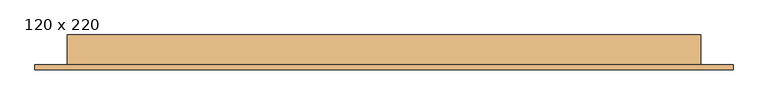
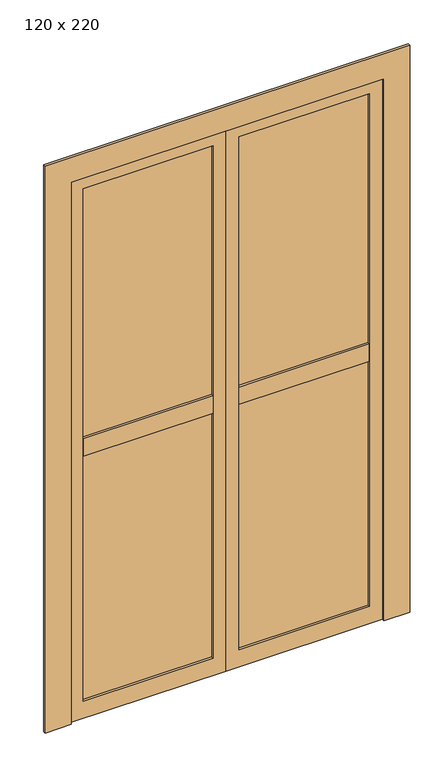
"""IFC4 building model written with IfcOpenShell, lengths in millimetres: door geometry, PORTA DE VIDRO COM ESQUADRIA DE ABRIR - 2 FOLHAS : 120 x 220."""

import ifcopenshell
import ifcopenshell.guid

model = None  # the IFC model being written
_history = None  # IfcOwnerHistory: only IFC2X3 demands one
_inside = {}  # id of a spatial element -> (the spatial element, [elements in it])
_under = {}  # id of a project, library or spatial element -> (it, [spatial elements below it])
_declared = {}  # id of a project -> (the project, [libraries it declares])
_typed = {}  # id of a type object -> (the type object, [elements of that type])
_made_of = {}  # id of a material, layer set ... -> (it, [elements and type objects made of it])


def new_model(schema):
    """Start an empty IFC model of exactly this schema.

    Asked for "IFC4X3", IfcOpenShell would pick the latest addendum, in which some entities
    have other attributes; the version numbers below select the first issue.
    IFC2X3 requires an IfcOwnerHistory on every rooted entity: one is made here for all.
    """
    global model, _history
    if schema == "IFC4X3":
        model = ifcopenshell.file(schema_version=(4, 3, 0, 0))
    else:
        model = ifcopenshell.file(schema=schema)
    _inside.clear()
    _under.clear()
    _declared.clear()
    _typed.clear()
    _made_of.clear()
    _history = None
    if model.schema == "IFC2X3":
        org = make("IfcOrganization", Name="unknown")
        user = make(
            "IfcPersonAndOrganization",
            ThePerson=make("IfcPerson", FamilyName="unknown"),
            TheOrganization=org,
        )
        app = make(
            "IfcApplication",
            ApplicationDeveloper=org,
            Version="unknown",
            ApplicationFullName="unknown",
            ApplicationIdentifier="unknown",
        )
        _history = make(
            "IfcOwnerHistory",
            OwningUser=user,
            OwningApplication=app,
            ChangeAction="ADDED",
            CreationDate=0,
        )
    return model


def make(cls, **values):
    """One entity of the class cls with the attributes given. An attribute that is None is left unset."""
    return model.create_entity(
        cls, **{name: value for name, value in values.items() if value is not None}
    )


def rooted(cls, **values):
    """An entity with a GlobalId (a new one), such as an element, a storey or a relation."""
    return make(cls, GlobalId=ifcopenshell.guid.new(), OwnerHistory=_history, **values)


def si_unit(unit_type, name, prefix=None):
    """IfcSIUnit, for example si_unit("LENGTHUNIT", "METRE", prefix="MILLI")."""
    return make("IfcSIUnit", UnitType=unit_type, Prefix=prefix, Name=name)


def assignment(units):
    """IfcUnitAssignment: the units of a project."""
    return None if units is None else make("IfcUnitAssignment", Units=units)


def point(xyz):
    """IfcCartesianPoint."""
    return None if xyz is None else make("IfcCartesianPoint", Coordinates=xyz)


def direction(xyz):
    """IfcDirection."""
    return None if xyz is None else make("IfcDirection", DirectionRatios=xyz)


def frame(location, z_axis=None, x_axis=None):
    """IfcAxis2Placement3D, a coordinate frame: its origin and axes. An axis left out is left unset."""
    return make(
        "IfcAxis2Placement3D",
        Location=point(location),
        Axis=direction(z_axis),
        RefDirection=direction(x_axis),
    )


def origin():
    """The frame at (0, 0, 0) with its axes left unset."""
    return frame((0.0, 0.0, 0.0))


def place(relative_to, where):
    """IfcLocalPlacement: puts the frame where relative to a parent placement (None: the world)."""
    return make(
        "IfcLocalPlacement", PlacementRelTo=relative_to, RelativePlacement=where
    )


def context(
    kind, dimensions, precision=None, world=None, true_north=None, identifier=None
):
    """IfcGeometricRepresentationContext, for example the 3D "Model" context."""
    return make(
        "IfcGeometricRepresentationContext",
        ContextIdentifier=identifier,
        ContextType=kind,
        CoordinateSpaceDimension=dimensions,
        Precision=precision,
        WorldCoordinateSystem=world,
        TrueNorth=true_north,
    )


def project(units=None, contexts=None):
    """IfcProject with its units and contexts."""
    return rooted(
        "IfcProject",
        Name="project",
        RepresentationContexts=contexts,
        UnitsInContext=assignment(units),
    )


def spatial(cls, under=None, at=None, **own):
    """A site, building, storey or space (cls), placed at a placement, below another one or the project."""
    s = rooted(cls, ObjectPlacement=at, **own)
    if under is not None:
        _under.setdefault(under.id(), (under, []))[1].append(s)
    return s


def polyline(points):
    """IfcPolyline through the points."""
    return make("IfcPolyline", Points=[point(p) for p in points])


def outline(outer, holes=None, kind="AREA"):
    """IfcArbitraryClosedProfileDef: a profile drawn as a closed curve; with holes, ...WithVoids."""
    if holes is None:
        return make("IfcArbitraryClosedProfileDef", ProfileType=kind, OuterCurve=outer)
    return make(
        "IfcArbitraryProfileDefWithVoids",
        ProfileType=kind,
        OuterCurve=outer,
        InnerCurves=holes,
    )


def extrude(swept, where, along, depth):
    """IfcExtrudedAreaSolid: the profile swept, set in the frame where, extruded along a direction by depth."""
    return make(
        "IfcExtrudedAreaSolid",
        SweptArea=swept,
        Position=where,
        ExtrudedDirection=direction(along),
        Depth=depth,
    )


def faces_of(points, faces, orient=None, outer=None):
    """IfcFace entities. A face is a list of loops; a loop is a list of indices into points, from 0.

    orient and outer hold one flag for each loop. By default every Orientation is true, the
    first loop of a face is its IfcFaceOuterBound and the others are IfcFaceBound.
    """
    made = []
    for i, loops in enumerate(faces):
        bounds = []
        for j, loop in enumerate(loops):
            is_outer = j == 0 if outer is None else outer[i][j]
            bounds.append(
                make(
                    "IfcFaceOuterBound" if is_outer else "IfcFaceBound",
                    Bound=make("IfcPolyLoop", Polygon=[points[k] for k in loop]),
                    Orientation=True if orient is None else orient[i][j],
                )
            )
        made.append(make("IfcFace", Bounds=bounds))
    return made


def faceted_brep(points, faces, orient=None, outer=None, voids=None):
    """IfcFacetedBrep: a solid bounded by flat faces; with voids (closed shells), ...WithVoids."""
    shared = [point(p) for p in points]
    hull = make("IfcClosedShell", CfsFaces=faces_of(shared, faces, orient, outer))
    if voids is None:
        return make("IfcFacetedBrep", Outer=hull)
    return make(
        "IfcFacetedBrepWithVoids",
        Outer=hull,
        Voids=[
            make(cls, CfsFaces=faces_of(shared, fs, o, b)) for cls, fs, o, b in voids
        ],
    )


def shape(context_of_items, identifier, shape_type, items):
    """IfcShapeRepresentation: the items that make up one representation, for example the "Body"."""
    return make(
        "IfcShapeRepresentation",
        ContextOfItems=context_of_items,
        RepresentationIdentifier=identifier,
        RepresentationType=shape_type,
        Items=items,
    )


def source(mapping_origin, context_of_items, identifier, shape_type, items):
    """IfcRepresentationMap: a shape defined once, which mapped items show again and again."""
    return make(
        "IfcRepresentationMap",
        MappingOrigin=mapping_origin,
        MappedRepresentation=shape(context_of_items, identifier, shape_type, items),
    )


def transform(
    local_origin,
    x_axis=None,
    y_axis=None,
    z_axis=None,
    scale=None,
    scale2=None,
    scale3=None,
    uniform=True,
):
    """IfcCartesianTransformationOperator3D, or its non-uniform kind. x_axis, y_axis, z_axis: its Axis1, 2, 3."""
    if uniform:
        return make(
            "IfcCartesianTransformationOperator3D",
            Axis1=direction(x_axis),
            Axis2=direction(y_axis),
            LocalOrigin=point(local_origin),
            Scale=scale,
            Axis3=direction(z_axis),
        )
    return make(
        "IfcCartesianTransformationOperator3DnonUniform",
        Axis1=direction(x_axis),
        Axis2=direction(y_axis),
        LocalOrigin=point(local_origin),
        Scale=scale,
        Axis3=direction(z_axis),
        Scale2=scale2,
        Scale3=scale3,
    )


def mapped(mapping_source, mapping_target):
    """IfcMappedItem: shows the shape of a source again, moved by a transform."""
    return make(
        "IfcMappedItem", MappingSource=mapping_source, MappingTarget=mapping_target
    )


def made_of(thing, what):
    """Note that an element or type object is made of a material, layer set ...; save() writes the relation."""
    if what is not None:
        _made_of.setdefault(what.id(), (what, []))[1].append(thing)
    return thing


def element(
    cls,
    number,
    at=None,
    inside=None,
    cuts=None,
    type_object=None,
    material=None,
    context=None,
    identifier="Body",
    shape_type=None,
    held_by="IfcProductDefinitionShape",
    body=None,
    shapes=None,
    **own,
):
    """One element of the class cls, such as IfcWall. Its Tag is "e" and its number.

    at: its placement. inside: the storey or other place that contains it. cuts: it is an
    opening in that element (IfcRelVoidsElement). A single representation is given by context,
    identifier, shape_type and body (its items); several are given by shapes. held_by: the class
    of the entity that holds the representations. save() writes the other relations.
    """
    e = rooted(cls, Tag="e%d" % number, ObjectPlacement=at, **own)
    if body is not None:
        shapes = [shape(context, identifier, shape_type, body)]
    if shapes is not None:
        e.Representation = make(held_by, Representations=shapes)
    if inside is not None:
        _inside.setdefault(inside.id(), (inside, []))[1].append(e)
    if cuts is not None:
        rooted(
            "IfcRelVoidsElement", RelatingBuildingElement=cuts, RelatedOpeningElement=e
        )
    if type_object is not None:
        _typed.setdefault(type_object.id(), (type_object, []))[1].append(e)
    return made_of(e, material)


def aggregate(whole, parts):
    """IfcRelAggregates: a whole, such as a stair, and the parts it consists of."""
    return rooted("IfcRelAggregates", RelatingObject=whole, RelatedObjects=parts)


def save(model, path):
    """Write the relations noted so far, then the file.

    IfcRelAggregates (storeys below a building ...), IfcRelContainedInSpatialStructure (elements
    in a storey), IfcRelDefinesByType, IfcRelAssociatesMaterial and IfcRelDeclares: one each for
    every whole, place, type object, material and project.
    """
    for whole, parts in _under.values():
        aggregate(whole, parts)
    for where, things in _inside.values():
        rooted(
            "IfcRelContainedInSpatialStructure",
            RelatedElements=things,
            RelatingStructure=where,
        )
    for kind, things in _typed.values():
        rooted("IfcRelDefinesByType", RelatedObjects=things, RelatingType=kind)
    for what, things in _made_of.values():
        rooted("IfcRelAssociatesMaterial", RelatedObjects=things, RelatingMaterial=what)
    for by, libraries in _declared.values():
        rooted("IfcRelDeclares", RelatingContext=by, RelatedDefinitions=libraries)
    model.write(path)


def door_120_x_220_21e3b68e(model_context):
    return source(origin(), model_context, "Body", "SolidModel", [
        extrude(outline(polyline([(475.0, -50.0), (475.0, -75.0), (-25.0, -75.0), (-25.0, -50.0), (475.0, -50.0)])), frame((0.0, 0.0, 1065.0), z_axis=(0.0, 0.0, 1.0), x_axis=(1.0, 0.0, 0.0)), (0.0, 0.0, 1.0), 70.0),
        extrude(outline(polyline([(-25.0, -59.5), (475.0, -59.5), (475.0, -65.5), (-25.0, -65.5), (-25.0, -59.5)])), frame((0.0, 0.0, 70.0), z_axis=(0.0, 0.0, 1.0), x_axis=(1.0, 0.0, 0.0)), (0.0, 0.0, 1.0), 2080.0),
        extrude(outline(polyline([(2200.0, -75.0), (0.0, -75.0), (0.0, 525.0), (2200.0, 525.0), (2200.0, -75.0)]), holes=[polyline([(2150.0, -25.0), (2150.0, 475.0), (70.0, 475.0), (70.0, -25.0), (2150.0, -25.0)])]), frame((0.0, -75.0, 0.0), z_axis=(0.0, 1.0, 0.0), x_axis=(0.0, 0.0, 1.0)), (0.0, 0.0, 1.0), 25.0),
        extrude(outline(polyline([(-625.0, -50.0), (-125.0, -50.0), (-125.0, -75.0), (-625.0, -75.0), (-625.0, -50.0)])), frame((0.0, 0.0, 1065.0), z_axis=(0.0, 0.0, 1.0), x_axis=(1.0, 0.0, 0.0)), (0.0, 0.0, 1.0), 70.0),
        extrude(outline(polyline([(-125.0, -59.5), (-125.0, -65.5), (-625.0, -65.5), (-625.0, -59.5), (-125.0, -59.5)])), frame((0.0, 0.0, 70.0), z_axis=(0.0, 0.0, 1.0), x_axis=(1.0, 0.0, 0.0)), (0.0, 0.0, 1.0), 2080.0),
        extrude(outline(polyline([(2200.0, -75.0), (2200.0, -675.0), (0.0, -675.0), (0.0, -75.0), (2200.0, -75.0)]), holes=[polyline([(2150.0, -125.0), (70.0, -125.0), (70.0, -625.0), (2150.0, -625.0), (2150.0, -125.0)])]), frame((0.0, -75.0, 0.0), z_axis=(0.0, 1.0, 0.0), x_axis=(0.0, 0.0, 1.0)), (0.0, 0.0, 1.0), 25.0),
        extrude(outline(polyline([(2200.0, -675.0), (2200.0, 525.0), (0.0, 525.0), (0.0, 625.0), (2300.0, 625.0), (2300.0, -775.0), (0.0, -775.0), (0.0, -675.0), (2200.0, -675.0)])), frame((0.0, -85.0, 0.0), z_axis=(0.0, 1.0, 0.0), x_axis=(0.0, 0.0, 1.0)), (0.0, 0.0, 1.0), 10.0),
        faceted_brep([(-710.0, -15.0, 0.0), (-665.0, -15.0, 0.0), (-665.0, -50.0, 0.0), (-675.0, -50.0, 0.0), (-675.0, -75.0, 0.0), (-710.0, -75.0, 0.0), (-710.0, -15.0, 2235.0), (560.0, -15.0, 2235.0), (560.0, -15.0, 0.0), (515.0, -15.0, 0.0), (515.0, -15.0, 2190.0), (-665.0, -15.0, 2190.0), (-665.0, -50.0, 2190.0), (515.0, -50.0, 2190.0), (515.0, -50.0, 0.0), (525.0, -50.0, 0.0), (525.0, -50.0, 2200.0), (-675.0, -50.0, 2200.0), (-675.0, -75.0, 2200.0), (525.0, -75.0, 2200.0), (525.0, -75.0, 0.0), (560.0, -75.0, 0.0), (560.0, -75.0, 2235.0), (-710.0, -75.0, 2235.0)], [[[0, 1, 2, 3, 4, 5]], [[1, 0, 6, 7, 8, 9, 10, 11]], [[2, 1, 11, 12]], [[3, 2, 12, 13, 14, 15, 16, 17]], [[4, 3, 17, 18]], [[5, 4, 18, 19, 20, 21, 22, 23]], [[0, 5, 23, 6]], [[7, 22, 21, 8]], [[8, 21, 20, 15, 14, 9]], [[13, 10, 9, 14]], [[19, 16, 15, 20]], [[12, 11, 10, 13]], [[18, 17, 16, 19]], [[6, 23, 22, 7]]]),
    ])


if __name__ == "__main__":
    model = new_model("IFC4")
    model_context = context("Model", 3, world=origin())
    ifc_project = project(units=[si_unit("LENGTHUNIT", "METRE", prefix="MILLI")], contexts=[model_context])
    site = spatial("IfcSite", under=ifc_project)
    building = spatial("IfcBuilding", under=site)
    placement = place(None, origin())
    door_120_x_220_shape = door_120_x_220_21e3b68e(model_context)
    element("IfcDoor", 1, ObjectType="PORTA DE VIDRO COM ESQUADRIA DE ABRIR - 2 FOLHAS : 120 x 220", at=placement, inside=building, context=model_context, shape_type="MappedRepresentation", body=[
        mapped(door_120_x_220_shape, transform((0.0, 0.0, 0.0), x_axis=(1.0, 0.0, 0.0), y_axis=(0.0, 1.0, 0.0), z_axis=(0.0, 0.0, 1.0))),
    ])
    save(model, "model.ifc")
